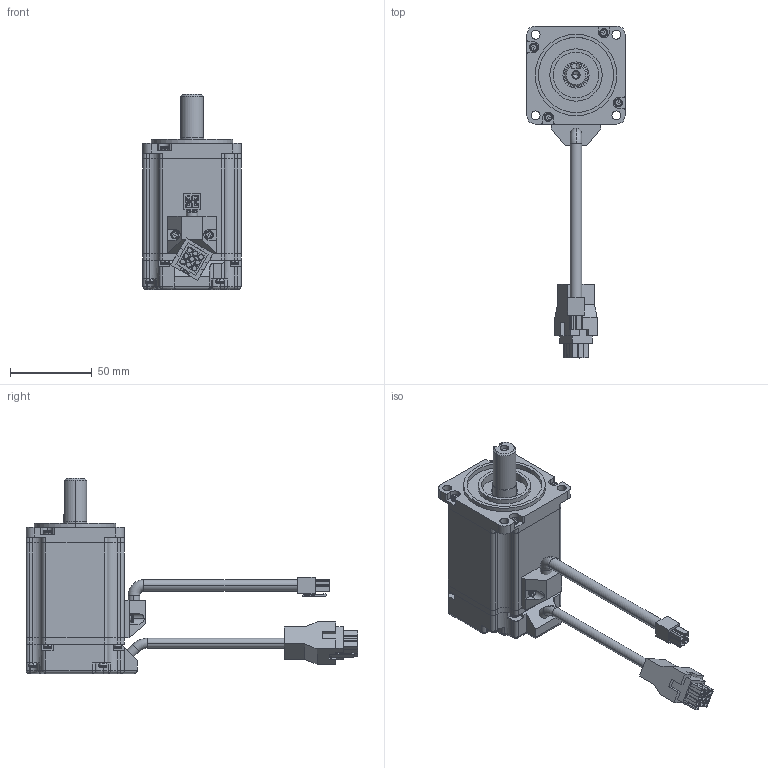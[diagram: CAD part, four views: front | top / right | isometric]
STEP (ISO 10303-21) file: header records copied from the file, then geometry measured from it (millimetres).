
FILE_DESCRIPTION (( 'STEP AP203' ), '1' );
FILE_NAME ('60S5D-A4013050.STEP', '2020-08-10T01:40:06', ( 'Windows' ), ( 'Microsoft' ), 'SwSTEP 2.0', 'SolidWorks 2015', '' );
FILE_SCHEMA (( 'CONFIG_CONTROL_DESIGN' ));
Length unit declared in the file: millimetre
Products named in the file (12): 粣; M3X46蹟隊; 等揤盄裔; HX42000-4R; HX42000-9R; 隅赽; 晤鎢ん盄; 綴傷裔; 萇儂盄; 綴欶; 60S5D-A4013050; ヶ傷裔
Assembly tree (24 placements, depth 2):
  60S5D-A4013050
    隅赽
    綴傷裔
    綴欶
    ヶ傷裔
    粣
    M3X46蹟隊  x14
    等揤盄裔
    HX42000-4R
    HX42000-9R
    晤鎢ん盄
    萇儂盄
Bounding box: 60 x 203.12 x 119.5 mm (x, y, z)
Volume: 334292.6 mm3; surface area: 74754.5 mm2
Topology: 24 solids, 33 shells, 1008 faces, 2490 edges, 1596 vertices
Faces by surface type: plane 588, cylinder 332, bspline 56, torus 13, sphere 12, cone 7
Entity records: 22469 total; most frequent: CARTESIAN_POINT 3716, DIRECTION 3619, ORIENTED_EDGE 3474, EDGE_CURVE 1737, LINE 1265, VECTOR 1265, AXIS2_PLACEMENT_3D 1177, VERTEX_POINT 1128
